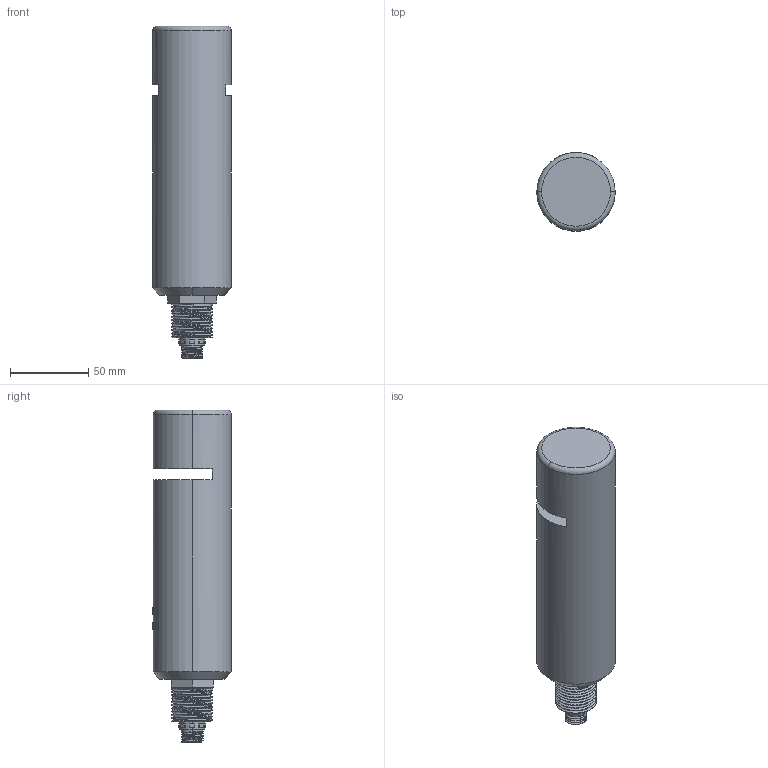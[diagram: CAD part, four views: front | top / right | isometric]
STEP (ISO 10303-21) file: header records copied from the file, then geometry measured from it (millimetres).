
FILE_DESCRIPTION((''),'2;1');
FILE_NAME('KWS-100_ASM','2025-12-25T17:00:35',('28740194'),(''),'CREO PARAMETRIC BY PTC INC, 2024063','CREO PARAMETRIC BY PTC INC, 2024063','');
FILE_SCHEMA(('CONFIG_CONTROL_DESIGN'));
Length unit declared in the file: millimetre
Products named in the file (3): KWS-100; 0001; KWS-100_ASM
Assembly tree (2 placements, depth 2):
  KWS-100_ASM
    KWS-100
    0001
Bounding box: 50 x 50.26 x 212 mm (x, y, z)
Volume: 340518.2 mm3; surface area: 38079.3 mm2
Topology: 2 solids, 2 shells, 457 faces, 1262 edges, 838 vertices
Faces by surface type: bspline 328, plane 64, cylinder 61, torus 2, cone 2
Entity records: 23738 total; most frequent: CARTESIAN_POINT 14491, ORIENTED_EDGE 2520, EDGE_CURVE 1260, DIRECTION 854, B_SPLINE_CURVE_WITH_KNOTS 846, VERTEX_POINT 837, EDGE_LOOP 487, FACE_OUTER_BOUND 457
